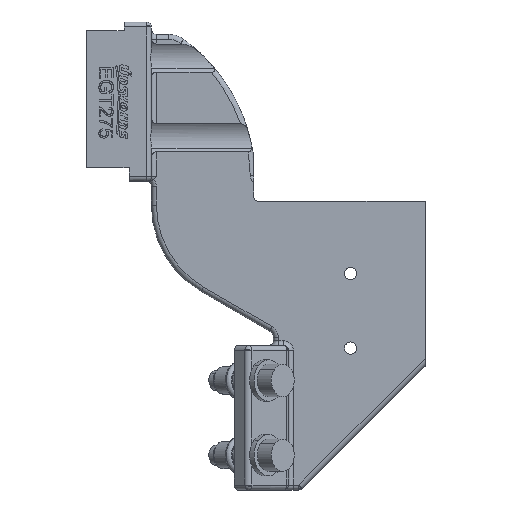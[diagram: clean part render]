
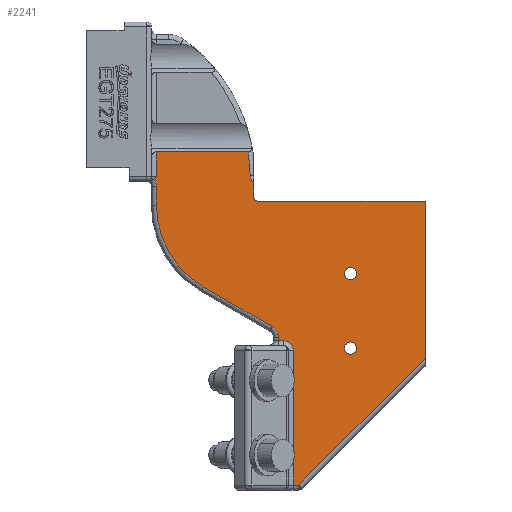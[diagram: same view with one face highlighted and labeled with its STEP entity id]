
A CAD part, front view. The second image highlights one B-rep face of the part: STEP entity #2241.
In plain terms, the highlighted planar face has unit normal (0, -1, 0).
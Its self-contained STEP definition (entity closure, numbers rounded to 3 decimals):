
#1179=CARTESIAN_POINT('Control Point',(-21.223,-8.,80.878)) ;
#1180=CARTESIAN_POINT('Control Point',(-20.863,-8.,81.156)) ;
#1181=CARTESIAN_POINT('Control Point',(-20.56,-8.,81.442)) ;
#1182=CARTESIAN_POINT('Control Point',(-20.279,-8.,81.721)) ;
#1183=CARTESIAN_POINT('Control Point',(-20.,-8.,82.)) ;
#1184=CARTESIAN_POINT('Vertex',(-21.223,-8.,80.878)) ;
#1186=CARTESIAN_POINT('Vertex',(-20.,-8.,82.)) ;
#1349=CARTESIAN_POINT('Axis2P3D Location',(-50.324,-8.,80.5)) ;
#1353=CARTESIAN_POINT('Vertex',(16.724,-8.,91.843)) ;
#1355=CARTESIAN_POINT('Vertex',(17.65,-8.,82.389)) ;
#1472=CARTESIAN_POINT('Vertex',(19.,-8.,79.503)) ;
#1475=CARTESIAN_POINT('Line Origine',(19.,-8.,76.751)) ;
#1479=CARTESIAN_POINT('Vertex',(19.,-8.,74.)) ;
#1577=CARTESIAN_POINT('Vertex',(21.,-8.,72.)) ;
#1580=CARTESIAN_POINT('Axis2P3D Location',(21.,-8.,74.)) ;
#1597=CARTESIAN_POINT('Line Origine',(54.5,-8.,72.)) ;
#1601=CARTESIAN_POINT('Vertex',(88.,-8.,72.)) ;
#1726=CARTESIAN_POINT('Line Origine',(88.,-8.,40.414)) ;
#1730=CARTESIAN_POINT('Vertex',(88.,-8.,8.828)) ;
#2068=CARTESIAN_POINT('Axis2P3D Location',(0.,-8.,0.)) ;
#2073=CARTESIAN_POINT('Line Origine',(-1.638,-8.,91.843)) ;
#2077=CARTESIAN_POINT('Vertex',(-20.,-8.,91.843)) ;
#2080=CARTESIAN_POINT('Line Origine',(-20.,-8.,86.922)) ;
#2085=CARTESIAN_POINT('Axis2P3D Location',(-24.,-8.,78.)) ;
#2089=CARTESIAN_POINT('Vertex',(-20.,-8.,78.)) ;
#2092=CARTESIAN_POINT('Line Origine',(-20.,-8.,74.192)) ;
#2096=CARTESIAN_POINT('Vertex',(-20.,-8.,70.384)) ;
#2099=CARTESIAN_POINT('Axis2P3D Location',(18.,-8.,70.384)) ;
#2103=CARTESIAN_POINT('Vertex',(-1.,-8.,37.475)) ;
#2106=CARTESIAN_POINT('Line Origine',(12.75,-8.,29.537)) ;
#2110=CARTESIAN_POINT('Vertex',(26.5,-8.,21.598)) ;
#2113=CARTESIAN_POINT('Axis2P3D Location',(24.,-8.,17.268)) ;
#2117=CARTESIAN_POINT('Vertex',(29.,-8.,17.268)) ;
#2120=CARTESIAN_POINT('Line Origine',(29.,-8.,16.634)) ;
#2124=CARTESIAN_POINT('Vertex',(29.,-8.,16.)) ;
#2127=CARTESIAN_POINT('Line Origine',(30.,-8.,16.)) ;
#2131=CARTESIAN_POINT('Vertex',(31.,-8.,16.)) ;
#2135=CARTESIAN_POINT('Control Point',(35.,-8.,12.)) ;
#2136=CARTESIAN_POINT('Control Point',(35.,-8.,12.392)) ;
#2137=CARTESIAN_POINT('Control Point',(34.952,-8.,12.784)) ;
#2138=CARTESIAN_POINT('Control Point',(34.856,-8.,13.168)) ;
#2139=CARTESIAN_POINT('Control Point',(34.572,-8.,13.905)) ;
#2140=CARTESIAN_POINT('Control Point',(34.118,-8.,14.551)) ;
#2141=CARTESIAN_POINT('Control Point',(33.853,-8.,14.845)) ;
#2142=CARTESIAN_POINT('Control Point',(33.256,-8.,15.361)) ;
#2143=CARTESIAN_POINT('Control Point',(32.551,-8.,15.718)) ;
#2144=CARTESIAN_POINT('Control Point',(32.179,-8.,15.853)) ;
#2145=CARTESIAN_POINT('Control Point',(31.714,-8.,15.958)) ;
#2146=CARTESIAN_POINT('Control Point',(31.243,-8.,15.994)) ;
#2147=CARTESIAN_POINT('Control Point',(31.162,-8.,15.998)) ;
#2148=CARTESIAN_POINT('Control Point',(31.081,-8.,16.)) ;
#2149=CARTESIAN_POINT('Control Point',(31.,-8.,16.)) ;
#2150=CARTESIAN_POINT('Vertex',(35.,-8.,12.)) ;
#2153=CARTESIAN_POINT('Line Origine',(35.,-8.,-15.)) ;
#2157=CARTESIAN_POINT('Vertex',(35.,-8.,-42.)) ;
#2160=CARTESIAN_POINT('Line Origine',(36.086,-8.,-42.)) ;
#2164=CARTESIAN_POINT('Vertex',(37.172,-8.,-42.)) ;
#2167=CARTESIAN_POINT('Line Origine',(62.586,-8.,-16.586)) ;
#2173=CARTESIAN_POINT('Control Point',(19.,-8.,79.503)) ;
#2174=CARTESIAN_POINT('Control Point',(18.706,-8.,79.762)) ;
#2175=CARTESIAN_POINT('Control Point',(18.444,-8.,80.058)) ;
#2176=CARTESIAN_POINT('Control Point',(18.22,-8.,80.384)) ;
#2177=CARTESIAN_POINT('Control Point',(17.916,-8.,80.97)) ;
#2178=CARTESIAN_POINT('Control Point',(17.737,-8.,81.603)) ;
#2179=CARTESIAN_POINT('Control Point',(17.687,-8.,81.863)) ;
#2180=CARTESIAN_POINT('Control Point',(17.658,-8.,82.125)) ;
#2181=CARTESIAN_POINT('Control Point',(17.65,-8.,82.389)) ;
#2205=CARTESIAN_POINT('Axis2P3D Location',(58.,-8.,43.)) ;
#2209=CARTESIAN_POINT('Vertex',(60.158,-8.,44.179)) ;
#2211=CARTESIAN_POINT('Vertex',(55.842,-8.,41.821)) ;
#2214=CARTESIAN_POINT('Axis2P3D Location',(58.,-8.,43.)) ;
#2223=CARTESIAN_POINT('Axis2P3D Location',(58.,-8.,13.)) ;
#2227=CARTESIAN_POINT('Vertex',(60.158,-8.,14.179)) ;
#2229=CARTESIAN_POINT('Vertex',(55.842,-8.,11.821)) ;
#2232=CARTESIAN_POINT('Axis2P3D Location',(58.,-8.,13.)) ;
#1350=DIRECTION('Axis2P3D Direction',(-0.,1.,0.)) ;
#1476=DIRECTION('Vector Direction',(0.,0.,-1.)) ;
#1581=DIRECTION('Axis2P3D Direction',(0.,1.,0.)) ;
#1598=DIRECTION('Vector Direction',(-1.,0.,0.)) ;
#1727=DIRECTION('Vector Direction',(0.,0.,1.)) ;
#2069=DIRECTION('Axis2P3D Direction',(0.,1.,-0.)) ;
#2070=DIRECTION('Axis2P3D XDirection',(-1.,0.,0.)) ;
#2074=DIRECTION('Vector Direction',(-1.,0.,0.)) ;
#2081=DIRECTION('Vector Direction',(0.,0.,1.)) ;
#2086=DIRECTION('Axis2P3D Direction',(0.,1.,-0.)) ;
#2093=DIRECTION('Vector Direction',(0.,0.,-1.)) ;
#2100=DIRECTION('Axis2P3D Direction',(0.,1.,-0.)) ;
#2107=DIRECTION('Vector Direction',(0.866,0.,-0.5)) ;
#2114=DIRECTION('Axis2P3D Direction',(0.,1.,-0.)) ;
#2121=DIRECTION('Vector Direction',(0.,0.,-1.)) ;
#2128=DIRECTION('Vector Direction',(-1.,0.,0.)) ;
#2154=DIRECTION('Vector Direction',(0.,0.,1.)) ;
#2161=DIRECTION('Vector Direction',(-1.,0.,0.)) ;
#2168=DIRECTION('Vector Direction',(0.707,0.,0.707)) ;
#2206=DIRECTION('Axis2P3D Direction',(0.,1.,-0.)) ;
#2215=DIRECTION('Axis2P3D Direction',(0.,1.,-0.)) ;
#2224=DIRECTION('Axis2P3D Direction',(0.,1.,-0.)) ;
#2233=DIRECTION('Axis2P3D Direction',(0.,1.,-0.)) ;
#1351=AXIS2_PLACEMENT_3D('Circle Axis2P3D',#1349,#1350,$) ;
#1582=AXIS2_PLACEMENT_3D('Circle Axis2P3D',#1580,#1581,$) ;
#2071=AXIS2_PLACEMENT_3D('Plane Axis2P3D',#2068,#2069,#2070) ;
#2087=AXIS2_PLACEMENT_3D('Circle Axis2P3D',#2085,#2086,$) ;
#2101=AXIS2_PLACEMENT_3D('Circle Axis2P3D',#2099,#2100,$) ;
#2115=AXIS2_PLACEMENT_3D('Circle Axis2P3D',#2113,#2114,$) ;
#2207=AXIS2_PLACEMENT_3D('Circle Axis2P3D',#2205,#2206,$) ;
#2216=AXIS2_PLACEMENT_3D('Circle Axis2P3D',#2214,#2215,$) ;
#2225=AXIS2_PLACEMENT_3D('Circle Axis2P3D',#2223,#2224,$) ;
#2234=AXIS2_PLACEMENT_3D('Circle Axis2P3D',#2232,#2233,$) ;
#2184=ORIENTED_EDGE('',*,*,#2079,.T.) ;
#2185=ORIENTED_EDGE('',*,*,#2084,.F.) ;
#2186=ORIENTED_EDGE('',*,*,#1188,.F.) ;
#2187=ORIENTED_EDGE('',*,*,#2091,.F.) ;
#2188=ORIENTED_EDGE('',*,*,#2098,.F.) ;
#2189=ORIENTED_EDGE('',*,*,#2105,.F.) ;
#2190=ORIENTED_EDGE('',*,*,#2112,.F.) ;
#2191=ORIENTED_EDGE('',*,*,#2119,.F.) ;
#2192=ORIENTED_EDGE('',*,*,#2126,.F.) ;
#2193=ORIENTED_EDGE('',*,*,#2133,.F.) ;
#2194=ORIENTED_EDGE('',*,*,#2152,.F.) ;
#2195=ORIENTED_EDGE('',*,*,#2159,.F.) ;
#2196=ORIENTED_EDGE('',*,*,#2166,.T.) ;
#2197=ORIENTED_EDGE('',*,*,#2171,.F.) ;
#2198=ORIENTED_EDGE('',*,*,#1732,.F.) ;
#2199=ORIENTED_EDGE('',*,*,#1603,.F.) ;
#2200=ORIENTED_EDGE('',*,*,#1584,.T.) ;
#2201=ORIENTED_EDGE('',*,*,#1481,.F.) ;
#2202=ORIENTED_EDGE('',*,*,#2182,.F.) ;
#2203=ORIENTED_EDGE('',*,*,#1357,.F.) ;
#2220=ORIENTED_EDGE('',*,*,#2213,.T.) ;
#2221=ORIENTED_EDGE('',*,*,#2218,.T.) ;
#2238=ORIENTED_EDGE('',*,*,#2231,.T.) ;
#2239=ORIENTED_EDGE('',*,*,#2236,.T.) ;
#2222=FACE_BOUND('',#2219,.T.) ;
#2240=FACE_BOUND('',#2237,.T.) ;
#1477=VECTOR('Line Direction',#1476,1.) ;
#1599=VECTOR('Line Direction',#1598,1.) ;
#1728=VECTOR('Line Direction',#1727,1.) ;
#2075=VECTOR('Line Direction',#2074,1.) ;
#2082=VECTOR('Line Direction',#2081,1.) ;
#2094=VECTOR('Line Direction',#2093,1.) ;
#2108=VECTOR('Line Direction',#2107,1.) ;
#2122=VECTOR('Line Direction',#2121,1.) ;
#2129=VECTOR('Line Direction',#2128,1.) ;
#2155=VECTOR('Line Direction',#2154,1.) ;
#2162=VECTOR('Line Direction',#2161,1.) ;
#2169=VECTOR('Line Direction',#2168,1.) ;
#2241=ADVANCED_FACE('Brep With Voids',(#2204,#2222,#2240),#2072,.F.) ;
#1178=B_SPLINE_CURVE_WITH_KNOTS('',4,(#1179,#1180,#1181,#1182,#1183),.UNSPECIFIED.,.F.,.U.,(5,5),(0.,2.998),.UNSPECIFIED.) ;
#2134=B_SPLINE_CURVE_WITH_KNOTS('',5,(#2135,#2136,#2137,#2138,#2139,#2140,#2141,#2142,#2143,#2144,#2145,#2146,#2147,#2148,#2149),.UNSPECIFIED.,.F.,.U.,(6,3,3,3,6),(0.,2.778,5.555,8.333,8.906),.UNSPECIFIED.) ;
#2172=B_SPLINE_CURVE_WITH_KNOTS('',5,(#2173,#2174,#2175,#2176,#2177,#2178,#2179,#2180,#2181),.UNSPECIFIED.,.F.,.U.,(6,3,6),(0.,2.777,4.644),.UNSPECIFIED.) ;
#1352=CIRCLE('generated circle',#1351,68.) ;
#1583=CIRCLE('generated circle',#1582,2.) ;
#2088=CIRCLE('generated circle',#2087,4.) ;
#2102=CIRCLE('generated circle',#2101,38.) ;
#2116=CIRCLE('generated circle',#2115,5.) ;
#2208=CIRCLE('generated circle',#2207,2.459) ;
#2217=CIRCLE('generated circle',#2216,2.459) ;
#2226=CIRCLE('generated circle',#2225,2.459) ;
#2235=CIRCLE('generated circle',#2234,2.459) ;
#1188=EDGE_CURVE('',#1185,#1187,#1178,.T.) ;
#1357=EDGE_CURVE('',#1354,#1356,#1352,.T.) ;
#1481=EDGE_CURVE('',#1473,#1480,#1478,.T.) ;
#1584=EDGE_CURVE('',#1578,#1480,#1583,.T.) ;
#1603=EDGE_CURVE('',#1578,#1602,#1600,.F.) ;
#1732=EDGE_CURVE('',#1602,#1731,#1729,.F.) ;
#2079=EDGE_CURVE('',#1354,#2078,#2076,.T.) ;
#2084=EDGE_CURVE('',#1187,#2078,#2083,.T.) ;
#2091=EDGE_CURVE('',#2090,#1185,#2088,.F.) ;
#2098=EDGE_CURVE('',#2097,#2090,#2095,.F.) ;
#2105=EDGE_CURVE('',#2104,#2097,#2102,.T.) ;
#2112=EDGE_CURVE('',#2111,#2104,#2109,.F.) ;
#2119=EDGE_CURVE('',#2118,#2111,#2116,.F.) ;
#2126=EDGE_CURVE('',#2125,#2118,#2123,.F.) ;
#2133=EDGE_CURVE('',#2132,#2125,#2130,.T.) ;
#2152=EDGE_CURVE('',#2151,#2132,#2134,.T.) ;
#2159=EDGE_CURVE('',#2158,#2151,#2156,.T.) ;
#2166=EDGE_CURVE('',#2158,#2165,#2163,.F.) ;
#2171=EDGE_CURVE('',#1731,#2165,#2170,.F.) ;
#2182=EDGE_CURVE('',#1356,#1473,#2172,.F.) ;
#2213=EDGE_CURVE('',#2210,#2212,#2208,.T.) ;
#2218=EDGE_CURVE('',#2212,#2210,#2217,.T.) ;
#2231=EDGE_CURVE('',#2228,#2230,#2226,.T.) ;
#2236=EDGE_CURVE('',#2230,#2228,#2235,.T.) ;
#2183=EDGE_LOOP('',(#2184,#2185,#2186,#2187,#2188,#2189,#2190,#2191,#2192,#2193,#2194,#2195,#2196,#2197,#2198,#2199,#2200,#2201,#2202,#2203)) ;
#2219=EDGE_LOOP('',(#2220,#2221)) ;
#2237=EDGE_LOOP('',(#2238,#2239)) ;
#2204=FACE_OUTER_BOUND('',#2183,.T.) ;
#1478=LINE('Line',#1475,#1477) ;
#1600=LINE('Line',#1597,#1599) ;
#1729=LINE('Line',#1726,#1728) ;
#2076=LINE('Line',#2073,#2075) ;
#2083=LINE('Line',#2080,#2082) ;
#2095=LINE('Line',#2092,#2094) ;
#2109=LINE('Line',#2106,#2108) ;
#2123=LINE('Line',#2120,#2122) ;
#2130=LINE('Line',#2127,#2129) ;
#2156=LINE('Line',#2153,#2155) ;
#2163=LINE('Line',#2160,#2162) ;
#2170=LINE('Line',#2167,#2169) ;
#2072=PLANE('',#2071) ;
#1185=VERTEX_POINT('',#1184) ;
#1187=VERTEX_POINT('',#1186) ;
#1354=VERTEX_POINT('',#1353) ;
#1356=VERTEX_POINT('',#1355) ;
#1473=VERTEX_POINT('',#1472) ;
#1480=VERTEX_POINT('',#1479) ;
#1578=VERTEX_POINT('',#1577) ;
#1602=VERTEX_POINT('',#1601) ;
#1731=VERTEX_POINT('',#1730) ;
#2078=VERTEX_POINT('',#2077) ;
#2090=VERTEX_POINT('',#2089) ;
#2097=VERTEX_POINT('',#2096) ;
#2104=VERTEX_POINT('',#2103) ;
#2111=VERTEX_POINT('',#2110) ;
#2118=VERTEX_POINT('',#2117) ;
#2125=VERTEX_POINT('',#2124) ;
#2132=VERTEX_POINT('',#2131) ;
#2151=VERTEX_POINT('',#2150) ;
#2158=VERTEX_POINT('',#2157) ;
#2165=VERTEX_POINT('',#2164) ;
#2210=VERTEX_POINT('',#2209) ;
#2212=VERTEX_POINT('',#2211) ;
#2228=VERTEX_POINT('',#2227) ;
#2230=VERTEX_POINT('',#2229) ;
